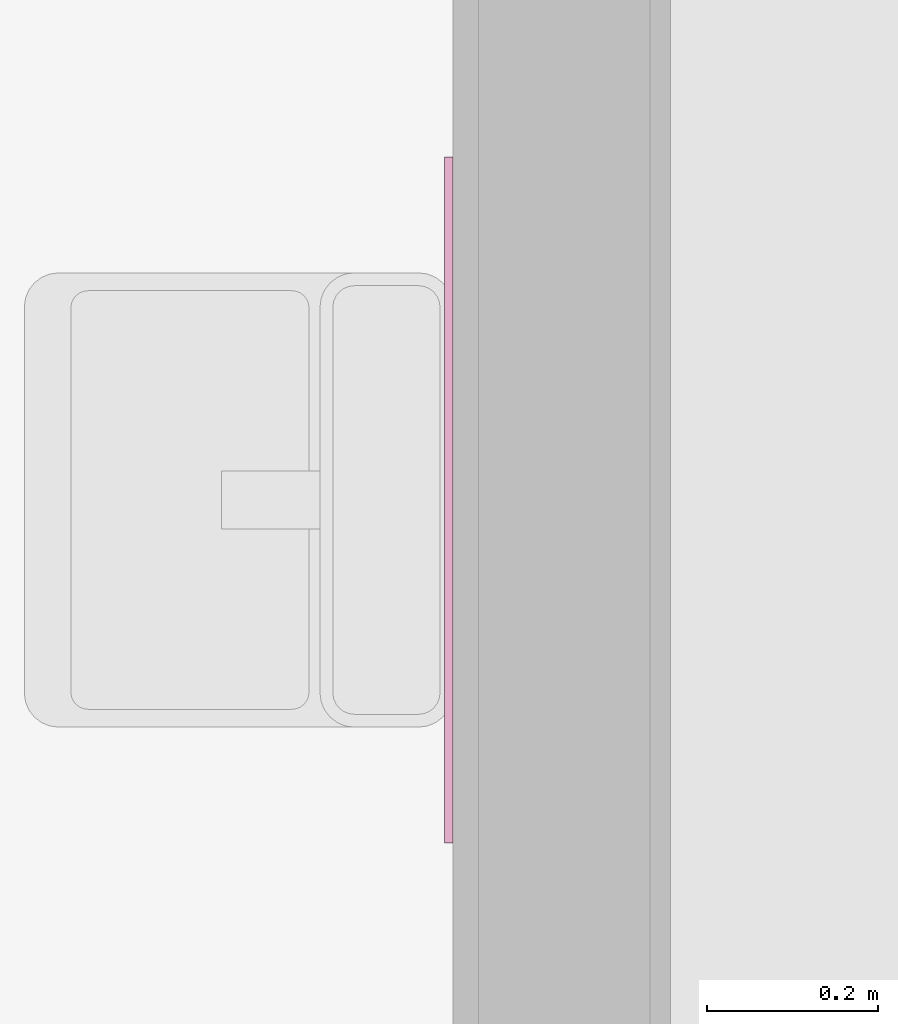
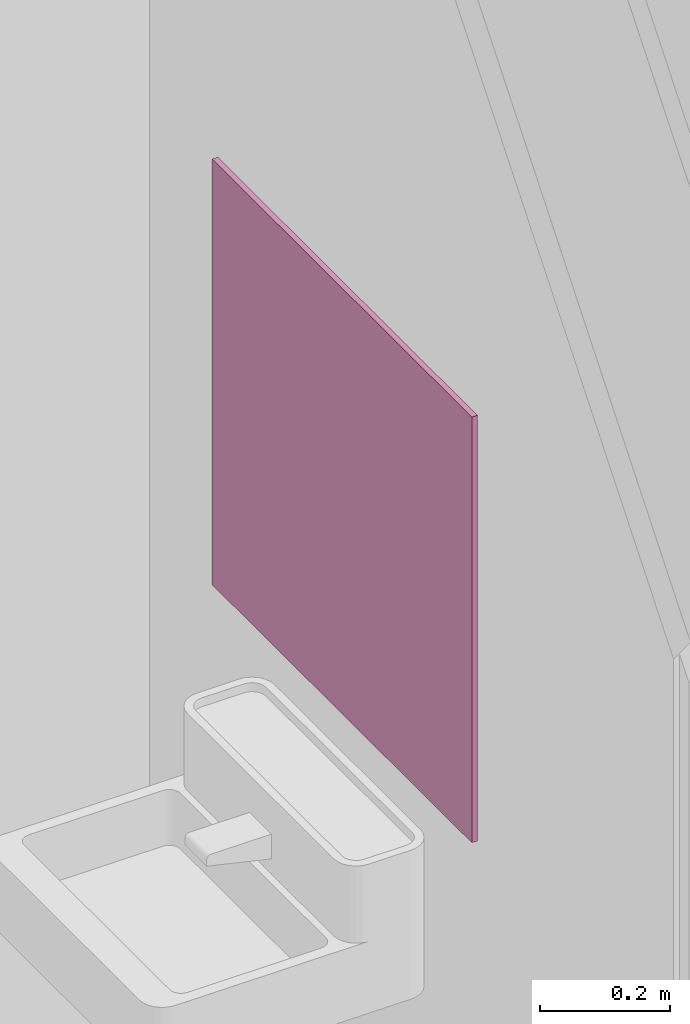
# One storey, part 78 of 81: 1 furnishing.
"""IFC2X3 building model written with IfcOpenShell, lengths in millimetres."""

from ifc_helpers import new_model, entity, si_unit, converted_unit, derived_unit, direction, frame, origin, origin_2d_with_axis, place, context, subcontext, project, spatial, rectangle, extrude, source, transform, mapped, material, type_object, type_shapes, element, save


model = new_model("IFC2X3")

# Units and contexts
model_context = context("Model", 3, precision=0.01, world=origin(), true_north=direction((6.123031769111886e-17, 1.0)))
body_context = subcontext(model_context, "Body", "Model", "MODEL_VIEW")
ifc_project = project(units=[si_unit("LENGTHUNIT", "METRE", prefix="MILLI"), si_unit("AREAUNIT", "SQUARE_METRE"), si_unit("VOLUMEUNIT", "CUBIC_METRE"), converted_unit("PLANEANGLEUNIT", "DEGREE", entity("IfcRatioMeasure", 0.017453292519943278), si_unit("PLANEANGLEUNIT", "RADIAN"), dimensions=[0, 0, 0, 0, 0, 0, 0]), si_unit("MASSUNIT", "GRAM", prefix="KILO"), derived_unit("MASSDENSITYUNIT", [(si_unit("MASSUNIT", "GRAM", prefix="KILO"), 1), (si_unit("LENGTHUNIT", "METRE"), -3)]), derived_unit("MOMENTOFINERTIAUNIT", [(si_unit("LENGTHUNIT", "METRE"), 4)]), si_unit("TIMEUNIT", "SECOND"), si_unit("FREQUENCYUNIT", "HERTZ"), si_unit("THERMODYNAMICTEMPERATUREUNIT", "DEGREE_CELSIUS"), derived_unit("THERMALTRANSMITTANCEUNIT", [(si_unit("MASSUNIT", "GRAM", prefix="KILO"), 1), (si_unit("THERMODYNAMICTEMPERATUREUNIT", "KELVIN"), -1), (si_unit("TIMEUNIT", "SECOND"), -3)]), derived_unit("VOLUMETRICFLOWRATEUNIT", [(si_unit("LENGTHUNIT", "METRE"), 3), (si_unit("TIMEUNIT", "SECOND"), -1)]), derived_unit("MASSFLOWRATEUNIT", [(si_unit("MASSUNIT", "GRAM", prefix="KILO"), 1), (si_unit("TIMEUNIT", "SECOND"), -1)]), derived_unit("ROTATIONALFREQUENCYUNIT", [(si_unit("TIMEUNIT", "SECOND"), -1)]), si_unit("ELECTRICCURRENTUNIT", "AMPERE"), si_unit("ELECTRICVOLTAGEUNIT", "VOLT"), si_unit("POWERUNIT", "WATT"), si_unit("FORCEUNIT", "NEWTON", prefix="KILO"), si_unit("ILLUMINANCEUNIT", "LUX"), si_unit("LUMINOUSFLUXUNIT", "LUMEN"), si_unit("LUMINOUSINTENSITYUNIT", "CANDELA"), derived_unit("USERDEFINED", [(si_unit("MASSUNIT", "GRAM", prefix="KILO"), -1), (si_unit("LENGTHUNIT", "METRE"), -2), (si_unit("TIMEUNIT", "SECOND"), 3), (si_unit("LUMINOUSFLUXUNIT", "LUMEN"), 1)]), derived_unit("SOUNDPOWERUNIT", [(si_unit("MASSUNIT", "GRAM", prefix="KILO"), 1), (si_unit("LENGTHUNIT", "METRE"), 2), (si_unit("TIMEUNIT", "SECOND"), -3)]), derived_unit("SOUNDPRESSUREUNIT", [(si_unit("MASSUNIT", "GRAM", prefix="KILO"), 1), (si_unit("LENGTHUNIT", "METRE"), -1), (si_unit("TIMEUNIT", "SECOND"), -2)]), derived_unit("LINEARVELOCITYUNIT", [(si_unit("LENGTHUNIT", "METRE"), 1), (si_unit("TIMEUNIT", "SECOND"), -1)]), si_unit("PRESSUREUNIT", "PASCAL"), derived_unit("USERDEFINED", [(si_unit("LENGTHUNIT", "METRE"), -2), (si_unit("MASSUNIT", "GRAM", prefix="KILO"), 1), (si_unit("TIMEUNIT", "SECOND"), -2)]), derived_unit("LINEARFORCEUNIT", [(si_unit("MASSUNIT", "GRAM", prefix="KILO"), 1), (si_unit("LENGTHUNIT", "METRE"), 1), (si_unit("TIMEUNIT", "SECOND"), -2), (si_unit("LENGTHUNIT", "METRE"), -1)]), derived_unit("PLANARFORCEUNIT", [(si_unit("MASSUNIT", "GRAM", prefix="KILO"), 1), (si_unit("LENGTHUNIT", "METRE"), 1), (si_unit("TIMEUNIT", "SECOND"), -2), (si_unit("LENGTHUNIT", "METRE"), -2)])], contexts=[model_context])

# Site, building, storey, space
site_placement = place(None, frame((-14167.972527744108, -657.2125860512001, 0.0)))
site = spatial("IfcSite", under=ifc_project, at=site_placement, Name="Default", CompositionType="ELEMENT")
building_placement = place(site_placement, origin())
building = spatial("IfcBuilding", under=site, at=building_placement, Name="Sample Building", CompositionType="ELEMENT")
storey_placement = place(building_placement, frame((0.0, 0.0, 13400.0)))
storey = spatial("IfcBuildingStorey", under=building, at=storey_placement, Name="지상 4층", CompositionType="ELEMENT", Elevation=13400.00000000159)
space_placement = place(storey_placement, origin())
space = spatial("IfcSpace", under=storey, at=space_placement, Name="222", CompositionType="ELEMENT", InteriorOrExteriorSpace="INTERNAL")

# Furnishing
ifc_material = material(Name="KBIMS-거울")
furniture_type = type_object("IfcFurnitureType", Name="PF531-거울:PF531-거울 800x800", material=ifc_material)
shared_shape = source(origin(), body_context, "Body", "SweptSolid", [
    extrude(rectangle(XDim=10.000000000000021, YDim=799.9999999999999, at=origin_2d_with_axis()), frame((0.0, 5.0, 0.0), z_axis=(0.0, 0.0, 1.0), x_axis=(0.0, 1.0, 0.0)), (0.0, 0.0, 1.0), 800.0000000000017),
])
type_shapes(furniture_type, [shared_shape])
furnishing_placement = place(space_placement, frame((36237.96375501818, 24567.313063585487, 1000.0), z_axis=(0.0, 0.0, 1.0), x_axis=(0.0, 1.0, 0.0)))
element("IfcFurnishingElement", 1, at=furnishing_placement, inside=space, type_object=furniture_type, material=ifc_material, Name="PF531-거울:PF531-거울 800x800", ObjectType="PF531-거울:PF531-거울 800x800", context=body_context, shape_type="MappedRepresentation", body=[
    mapped(shared_shape, transform((0.0, 0.0, 0.0), scale=1.0)),
])

save(model, "model.ifc")
